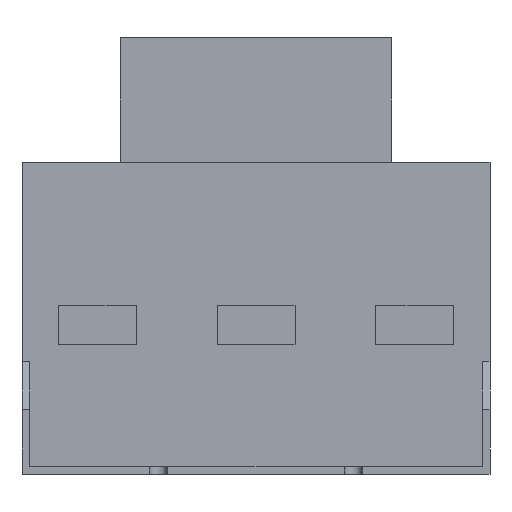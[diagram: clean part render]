
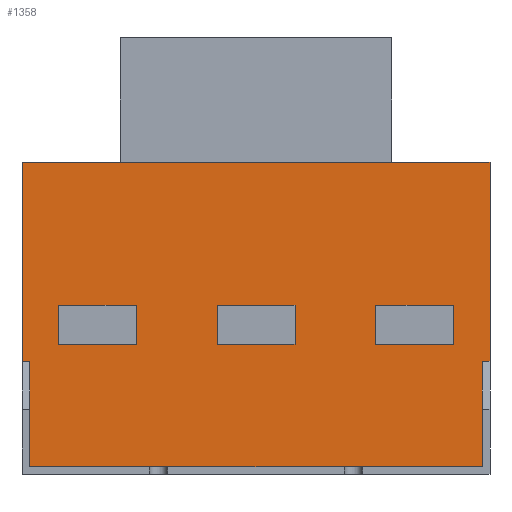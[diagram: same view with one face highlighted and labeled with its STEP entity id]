
A CAD part, front view. The second image highlights one B-rep face of the part: STEP entity #1358.
In plain terms, the highlighted planar face has unit normal (0, -1, 0).
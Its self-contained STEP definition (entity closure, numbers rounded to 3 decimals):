
#29=FACE_BOUND('',#237,.T.);
#30=FACE_BOUND('',#238,.T.);
#31=FACE_BOUND('',#239,.T.);
#80=PLANE('',#1473);
#151=FACE_OUTER_BOUND('',#236,.T.);
#236=EDGE_LOOP('',(#1162,#1163,#1164,#1165,#1166,#1167,#1168,#1169));
#237=EDGE_LOOP('',(#1170,#1171,#1172,#1173));
#238=EDGE_LOOP('',(#1174,#1175,#1176,#1177));
#239=EDGE_LOOP('',(#1178,#1179,#1180,#1181));
#268=LINE('',#1884,#430);
#272=LINE('',#1892,#434);
#275=LINE('',#1898,#437);
#278=LINE('',#1903,#440);
#280=LINE('',#1909,#442);
#284=LINE('',#1917,#446);
#287=LINE('',#1923,#449);
#290=LINE('',#1928,#452);
#292=LINE('',#1934,#454);
#296=LINE('',#1942,#458);
#299=LINE('',#1948,#461);
#302=LINE('',#1953,#464);
#373=LINE('',#2123,#535);
#377=LINE('',#2132,#539);
#386=LINE('',#2153,#548);
#389=LINE('',#2159,#551);
#390=LINE('',#2160,#552);
#391=LINE('',#2162,#553);
#392=LINE('',#2164,#554);
#393=LINE('',#2165,#555);
#430=VECTOR('',#1536,10.);
#434=VECTOR('',#1542,10.);
#437=VECTOR('',#1547,10.);
#440=VECTOR('',#1552,10.);
#442=VECTOR('',#1558,10.);
#446=VECTOR('',#1564,10.);
#449=VECTOR('',#1569,10.);
#452=VECTOR('',#1574,10.);
#454=VECTOR('',#1580,10.);
#458=VECTOR('',#1586,10.);
#461=VECTOR('',#1591,10.);
#464=VECTOR('',#1596,10.);
#535=VECTOR('',#1751,10.);
#539=VECTOR('',#1757,10.);
#548=VECTOR('',#1772,10.);
#551=VECTOR('',#1777,10.);
#552=VECTOR('',#1778,10.);
#553=VECTOR('',#1779,10.);
#554=VECTOR('',#1780,10.);
#555=VECTOR('',#1781,10.);
#622=VERTEX_POINT('',#1882);
#623=VERTEX_POINT('',#1883);
#626=VERTEX_POINT('',#1891);
#628=VERTEX_POINT('',#1897);
#630=VERTEX_POINT('',#1907);
#631=VERTEX_POINT('',#1908);
#634=VERTEX_POINT('',#1916);
#636=VERTEX_POINT('',#1922);
#638=VERTEX_POINT('',#1932);
#639=VERTEX_POINT('',#1933);
#642=VERTEX_POINT('',#1941);
#644=VERTEX_POINT('',#1947);
#701=VERTEX_POINT('',#2119);
#702=VERTEX_POINT('',#2121);
#704=VERTEX_POINT('',#2126);
#706=VERTEX_POINT('',#2130);
#715=VERTEX_POINT('',#2152);
#717=VERTEX_POINT('',#2158);
#718=VERTEX_POINT('',#2161);
#719=VERTEX_POINT('',#2163);
#752=EDGE_CURVE('',#622,#623,#268,.T.);
#756=EDGE_CURVE('',#623,#626,#272,.T.);
#759=EDGE_CURVE('',#626,#628,#275,.T.);
#762=EDGE_CURVE('',#628,#622,#278,.T.);
#764=EDGE_CURVE('',#630,#631,#280,.T.);
#768=EDGE_CURVE('',#631,#634,#284,.T.);
#771=EDGE_CURVE('',#634,#636,#287,.T.);
#774=EDGE_CURVE('',#636,#630,#290,.T.);
#776=EDGE_CURVE('',#638,#639,#292,.T.);
#780=EDGE_CURVE('',#639,#642,#296,.T.);
#783=EDGE_CURVE('',#642,#644,#299,.T.);
#786=EDGE_CURVE('',#644,#638,#302,.T.);
#869=EDGE_CURVE('',#702,#701,#373,.T.);
#873=EDGE_CURVE('',#706,#704,#377,.T.);
#882=EDGE_CURVE('',#715,#704,#386,.T.);
#885=EDGE_CURVE('',#702,#717,#389,.T.);
#886=EDGE_CURVE('',#717,#715,#390,.T.);
#887=EDGE_CURVE('',#718,#706,#391,.T.);
#888=EDGE_CURVE('',#719,#718,#392,.T.);
#889=EDGE_CURVE('',#701,#719,#393,.T.);
#1162=ORIENTED_EDGE('',*,*,#885,.T.);
#1163=ORIENTED_EDGE('',*,*,#886,.T.);
#1164=ORIENTED_EDGE('',*,*,#882,.T.);
#1165=ORIENTED_EDGE('',*,*,#873,.F.);
#1166=ORIENTED_EDGE('',*,*,#887,.F.);
#1167=ORIENTED_EDGE('',*,*,#888,.F.);
#1168=ORIENTED_EDGE('',*,*,#889,.F.);
#1169=ORIENTED_EDGE('',*,*,#869,.F.);
#1170=ORIENTED_EDGE('',*,*,#752,.T.);
#1171=ORIENTED_EDGE('',*,*,#756,.T.);
#1172=ORIENTED_EDGE('',*,*,#759,.T.);
#1173=ORIENTED_EDGE('',*,*,#762,.T.);
#1174=ORIENTED_EDGE('',*,*,#764,.T.);
#1175=ORIENTED_EDGE('',*,*,#768,.T.);
#1176=ORIENTED_EDGE('',*,*,#771,.T.);
#1177=ORIENTED_EDGE('',*,*,#774,.T.);
#1178=ORIENTED_EDGE('',*,*,#776,.T.);
#1179=ORIENTED_EDGE('',*,*,#780,.T.);
#1180=ORIENTED_EDGE('',*,*,#783,.T.);
#1181=ORIENTED_EDGE('',*,*,#786,.T.);
#1358=ADVANCED_FACE('',(#151,#29,#30,#31),#80,.T.);
#1473=AXIS2_PLACEMENT_3D('',#2157,#1775,#1776);
#1536=DIRECTION('',(0.,0.,1.));
#1542=DIRECTION('',(1.,0.,0.));
#1547=DIRECTION('',(0.,0.,-1.));
#1552=DIRECTION('',(-1.,0.,0.));
#1558=DIRECTION('',(0.,0.,1.));
#1564=DIRECTION('',(1.,0.,0.));
#1569=DIRECTION('',(0.,0.,-1.));
#1574=DIRECTION('',(-1.,0.,0.));
#1580=DIRECTION('',(0.,0.,1.));
#1586=DIRECTION('',(1.,0.,0.));
#1591=DIRECTION('',(0.,0.,-1.));
#1596=DIRECTION('',(-1.,0.,0.));
#1751=DIRECTION('',(-1.,0.,0.));
#1757=DIRECTION('',(-1.,0.,0.));
#1772=DIRECTION('',(0.,0.,1.));
#1775=DIRECTION('center_axis',(0.,-1.,0.));
#1776=DIRECTION('ref_axis',(1.,0.,0.));
#1777=DIRECTION('',(0.,0.,-1.));
#1778=DIRECTION('',(1.,0.,0.));
#1779=DIRECTION('',(0.,0.,-1.));
#1780=DIRECTION('',(1.,0.,0.));
#1781=DIRECTION('',(0.,0.,1.));
#1882=CARTESIAN_POINT('',(-76.,-145.,50.));
#1883=CARTESIAN_POINT('',(-76.,-145.,65.));
#1884=CARTESIAN_POINT('',(-76.,-145.,32.5));
#1891=CARTESIAN_POINT('',(-46.,-145.,65.));
#1892=CARTESIAN_POINT('',(-68.,-145.,65.));
#1897=CARTESIAN_POINT('',(-46.,-145.,50.));
#1898=CARTESIAN_POINT('',(-46.,-145.,25.));
#1903=CARTESIAN_POINT('',(-83.,-145.,50.));
#1907=CARTESIAN_POINT('',(-15.,-145.,50.));
#1908=CARTESIAN_POINT('',(-15.,-145.,65.));
#1909=CARTESIAN_POINT('',(-15.,-145.,32.5));
#1916=CARTESIAN_POINT('',(15.,-145.,65.));
#1917=CARTESIAN_POINT('',(-37.5,-145.,65.));
#1922=CARTESIAN_POINT('',(15.,-145.,50.));
#1923=CARTESIAN_POINT('',(15.,-145.,25.));
#1928=CARTESIAN_POINT('',(-52.5,-145.,50.));
#1932=CARTESIAN_POINT('',(46.,-145.,50.));
#1933=CARTESIAN_POINT('',(46.,-145.,65.));
#1934=CARTESIAN_POINT('',(46.,-145.,32.5));
#1941=CARTESIAN_POINT('',(76.,-145.,65.));
#1942=CARTESIAN_POINT('',(-7.,-145.,65.));
#1947=CARTESIAN_POINT('',(76.,-145.,50.));
#1948=CARTESIAN_POINT('',(76.,-145.,25.));
#1953=CARTESIAN_POINT('',(-22.,-145.,50.));
#2119=CARTESIAN_POINT('',(-90.,-145.,43.46));
#2121=CARTESIAN_POINT('',(-87.,-145.,43.46));
#2123=CARTESIAN_POINT('',(90.,-145.,43.46));
#2126=CARTESIAN_POINT('',(87.,-145.,43.46));
#2130=CARTESIAN_POINT('',(90.,-145.,43.46));
#2132=CARTESIAN_POINT('',(90.,-145.,43.46));
#2152=CARTESIAN_POINT('',(87.,-145.,3.));
#2153=CARTESIAN_POINT('',(87.,-145.,60.));
#2157=CARTESIAN_POINT('Origin',(-90.,-145.,0.));
#2158=CARTESIAN_POINT('',(-87.,-145.,3.));
#2159=CARTESIAN_POINT('',(-87.,-145.,1.5));
#2160=CARTESIAN_POINT('',(-1.5,-145.,3.));
#2161=CARTESIAN_POINT('',(90.,-145.,120.));
#2162=CARTESIAN_POINT('',(90.,-145.,80.411));
#2163=CARTESIAN_POINT('',(-90.,-145.,120.));
#2164=CARTESIAN_POINT('',(45.,-145.,120.));
#2165=CARTESIAN_POINT('',(-90.,-145.,80.411));
